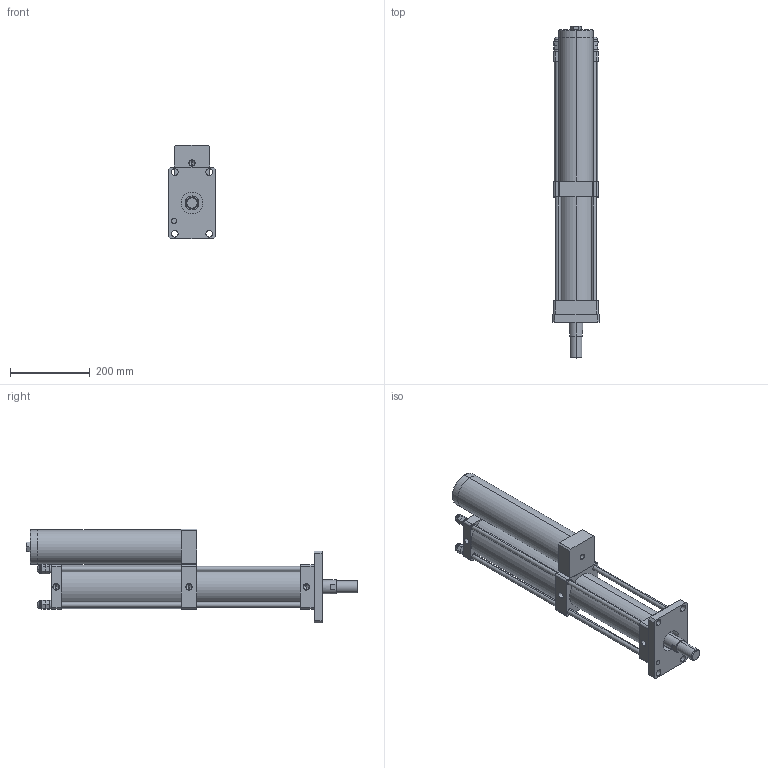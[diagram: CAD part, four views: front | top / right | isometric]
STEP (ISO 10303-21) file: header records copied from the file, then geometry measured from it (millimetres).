
FILE_DESCRIPTION (( 'STEP AP203' ), '1' );
FILE_NAME ('CPT-80-200-15-8T.STEP', '2016-03-11T03:16:47', ( 'WIN' ), ( '' ), 'SwSTEP 2.0', 'SolidWorks 2014', '' );
FILE_SCHEMA (( 'CONFIG_CONTROL_DESIGN' ));
Length unit declared in the file: millimetre
Products named in the file (1): CPT-80-200-15-8T
Bounding box: 118 x 835 x 235 mm (x, y, z)
Volume: 7120741.5 mm3; surface area: 765785.6 mm2
Topology: 17 solids, 17 shells, 389 faces, 959 edges, 560 vertices
Faces by surface type: plane 181, cylinder 90, bspline 48, torus 46, cone 24
Entity records: 12577 total; most frequent: CARTESIAN_POINT 3667, DIRECTION 1874, ORIENTED_EDGE 1786, EDGE_CURVE 893, AXIS2_PLACEMENT_3D 687, VERTEX_POINT 560, VECTOR 500, LINE 500
